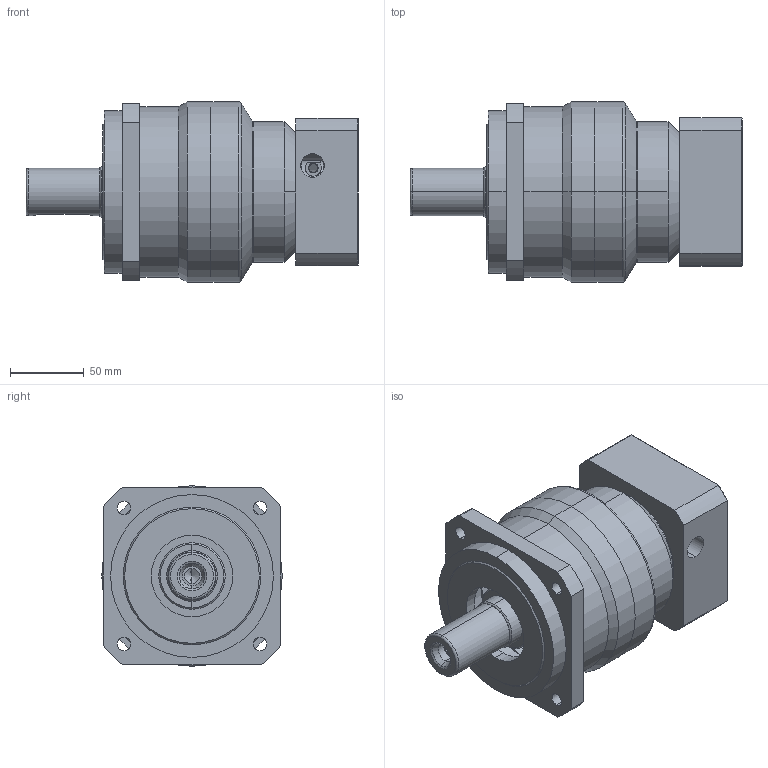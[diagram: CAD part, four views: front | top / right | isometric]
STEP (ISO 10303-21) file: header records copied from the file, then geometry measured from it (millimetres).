
FILE_DESCRIPTION (( 'STEP AP203' ), '1' );
FILE_NAME ('TCB120-L2-19-95-115-M8-63-12.STEP', '2020-11-27T02:21:52', ( 'Windows 蚚誧' ), ( 'Microsoft' ), 'SwSTEP 2.0', 'SolidWorks 2017', '' );
FILE_SCHEMA (( 'CONFIG_CONTROL_DESIGN' ));
Length unit declared in the file: millimetre
Products named in the file (7): 錨璃5; CQB-001; SCA-001-32; TCB120-L2-19-95-115-M8-63-12; 錨璃1_1; 錨璃4; CQA-001
Assembly tree (6 placements, depth 2):
  TCB120-L2-19-95-115-M8-63-12
    錨璃1_1
    錨璃4
    錨璃5
    CQA-001
    SCA-001-32
    CQB-001
Bounding box: 224.4 x 122 x 122 mm (x, y, z)
Volume: 1029358.9 mm3; surface area: 196815.7 mm2
Topology: 6 solids, 6 shells, 229 faces, 518 edges, 326 vertices
Faces by surface type: cylinder 109, plane 65, cone 43, bspline 8, torus 4
Entity records: 7647 total; most frequent: CARTESIAN_POINT 1594, DIRECTION 1219, ORIENTED_EDGE 1032, EDGE_CURVE 516, AXIS2_PLACEMENT_3D 509, VERTEX_POINT 326, EDGE_LOOP 280, CIRCLE 279
